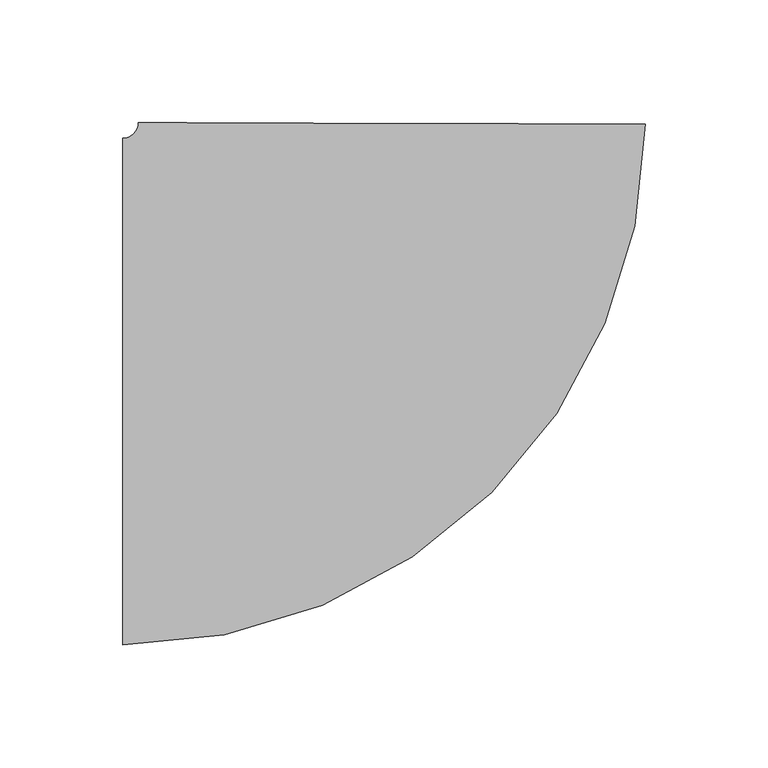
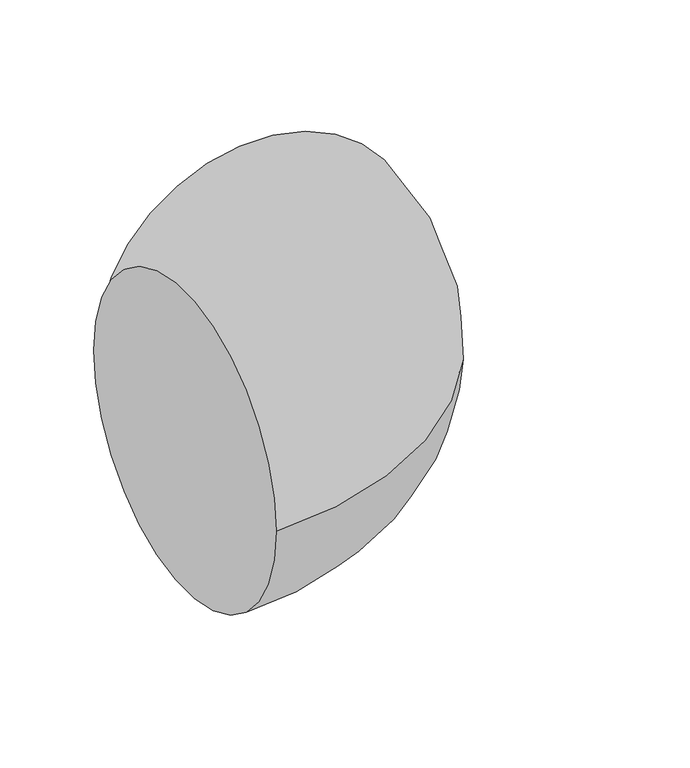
"""IFC4 building model written with IfcOpenShell, lengths in millimetres: pipe fitting geometry, M_Codo - Genérico : Estándar."""

from ifc_helpers import new_model, si_unit, point, frame, origin, place, context, project, spatial, circle_curve, ellipse_curve, trimmed, source, transform, mapped, element, save
from ifc_brep_helpers import plane_surface, revolved_surface, advanced_brep


def pipe_fitting_fdbd3d1a(model_context):
    return source(origin(), model_context, "Body", "AdvancedBrep", [
        advanced_brep(
        [(-109.1907605, -103.1875, 0.0), (-109.1907605, 103.1875, 0.0), (103.5331703, 108.8630561, 0.0), (-102.8407924, 109.5173673, 0.0)],
        [
            (0, 1, circle_curve(frame((-109.1907605, 0.0, 0.0), z_axis=(-1.0, 0.0, 0.0), x_axis=(0.0, 1.0, 0.0)), 103.1875)),
            (1, 0, circle_curve(frame((-109.1907605, 0.0, 0.0), z_axis=(-1.0, 0.0, 0.0), x_axis=(0.0, 1.0, 0.0)), 103.1875)),
            (2, 3, circle_curve(frame((0.346189, 109.1902117, 0.0), z_axis=(0.003170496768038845, 0.9999949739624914, 0.0), x_axis=(-0.9999949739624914, 0.003170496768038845, 0.0)), 103.1875)),
            (3, 2, circle_curve(frame((0.346189, 109.1902117, 0.0), z_axis=(0.003170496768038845, 0.9999949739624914, 0.0), x_axis=(-0.9999949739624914, 0.003170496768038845, 0.0)), 103.1875)),
            (3, 1, circle_curve(frame((-109.1907605, 109.5375, 0.0), z_axis=(0.0, 0.0, -1.0), x_axis=(0.0, -1.0, 0.0)), 6.35)),
            (0, 2, circle_curve(frame((-109.1907605, 109.5375, 0.0), z_axis=(0.0, 0.0, 1.0), x_axis=(0.0, -1.0, 0.0)), 212.725)),
        ],
        [
            plane_surface(frame((-109.1907605, 0.0, 0.0), z_axis=(-1.0, 0.0, 0.0), x_axis=(0.0, 0.0, 1.0))),
            plane_surface(frame((0.346189, 109.1902117, 0.0), z_axis=(0.0031704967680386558, 0.9999949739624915, 0.0), x_axis=(0.0, 0.0, 1.0))),
            revolved_surface(trimmed(ellipse_curve(frame((-109.1907605, 0.0, 0.0), z_axis=(-1.0, 0.0, 0.0), x_axis=(0.0, 1.0, 0.0)), 103.1875, 103.1875), [point((-109.1907605, -103.1875, 0.0))], [point((-109.1907605, 103.1875, 0.0))], True, "CARTESIAN"), (-109.1907605, 109.5375, 0.0), (0.0, 0.0, 1.0)),
            revolved_surface(trimmed(ellipse_curve(frame((-109.1907605, 0.0, 0.0), z_axis=(-1.0, 0.0, 0.0), x_axis=(0.0, 1.0, 0.0)), 103.1875, 103.1875), [point((-109.1907605, 103.1875, 0.0))], [point((-109.1907605, -103.1875, 0.0))], True, "CARTESIAN"), (-109.1907605, 109.5375, 0.0), (0.0, 0.0, 1.0)),
        ],
        [
            (0, [[1, 2]]),
            (1, [[3, 4]]),
            (2, [[5, -1, 6, -4]]),
            (3, [[-6, -2, -5, -3]]),
        ],
    ),
    ])


if __name__ == "__main__":
    model = new_model("IFC4")
    model_context = context("Model", 3, world=origin())
    ifc_project = project(units=[si_unit("LENGTHUNIT", "METRE", prefix="MILLI")], contexts=[model_context])
    site = spatial("IfcSite", under=ifc_project)
    building = spatial("IfcBuilding", under=site)
    placement = place(None, origin())
    pipe_fitting_shape = pipe_fitting_fdbd3d1a(model_context)
    element("IfcPipeFitting", 1, ObjectType="M_Codo - Genérico : Estándar", at=placement, inside=building, context=model_context, shape_type="MappedRepresentation", body=[
        mapped(pipe_fitting_shape, transform((0.0, 0.0, 0.0), x_axis=(1.0, 0.0, 0.0), y_axis=(0.0, 1.0, 0.0), z_axis=(0.0, 0.0, 1.0))),
    ])
    save(model, "model.ifc")
